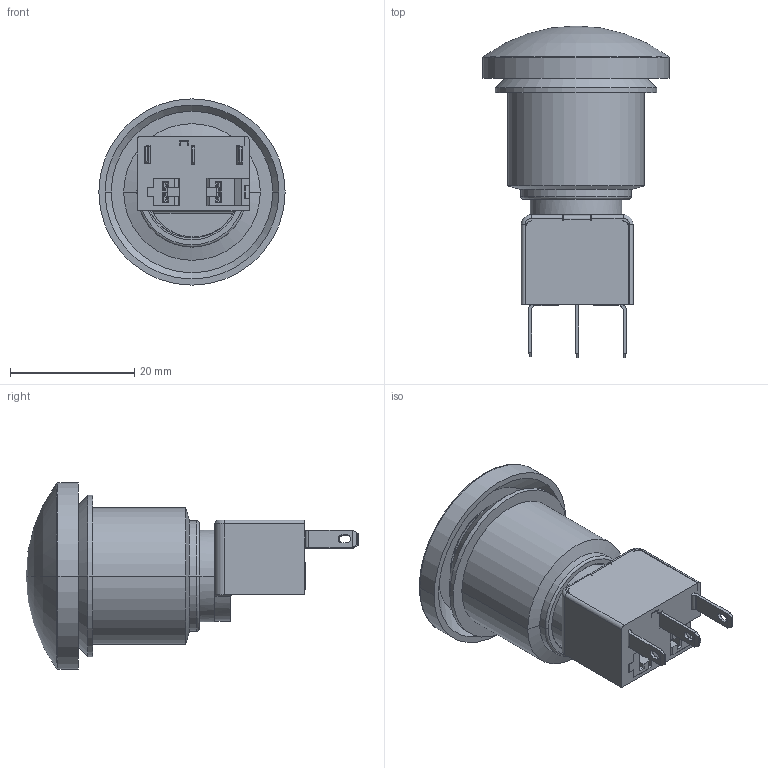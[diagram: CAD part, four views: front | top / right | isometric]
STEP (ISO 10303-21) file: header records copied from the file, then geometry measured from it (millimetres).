
FILE_DESCRIPTION((''),'2;1');
FILE_NAME('AV22PNAXA','2013-02-20T',('jfgibert'),(''),'PRO/ENGINEER BY PARAMETRIC TECHNOLOGY CORPORATION, 2011250','PRO/ENGINEER BY PARAMETRIC TECHNOLOGY CORPORATION, 2011250','');
FILE_SCHEMA(('CONFIG_CONTROL_DESIGN'));
Length unit declared in the file: millimetre
Products named in the file (1): AV22PNAXA
Bounding box: 30 x 53.47 x 30 mm (x, y, z)
Volume: 11819.3 mm3; surface area: 8825.7 mm2
Topology: 2 solids, 2 shells, 574 faces, 1620 edges, 1055 vertices
Faces by surface type: plane 394, cylinder 148, cone 18, torus 8, bspline 4, sphere 2
Entity records: 22232 total; most frequent: CARTESIAN_POINT 7005, ORIENTED_EDGE 3236, DIRECTION 3113, EDGE_CURVE 1618, VECTOR 1225, LINE 1225, VERTEX_POINT 1055, AXIS2_PLACEMENT_3D 944
